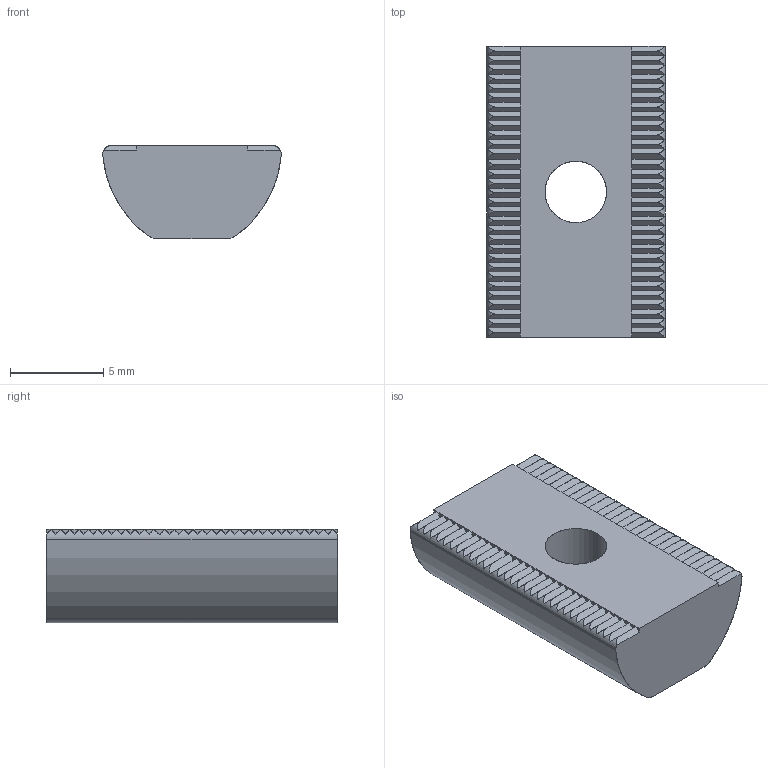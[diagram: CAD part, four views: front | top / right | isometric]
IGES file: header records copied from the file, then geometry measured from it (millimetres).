
Start section: SolidWorks IGES file using analytic representation for surfaces
Global section: file name: C:\Users\admin\Desktop\IGES\J3M4FDE.igs; native system: SolidWorks 2014; preprocessor: SolidWorks 2014; author: admin_pc; date: 170524.165454; units: millimetre
Bounding box: 9.58 x 15.6 x 5 mm (x, y, z)
Surface area: 529.9 mm2 (no closed solid volume)
Topology: 0 solids, 0 shells, 200 faces, 1520 edges, 1520 vertices
Faces by surface type: bspline 192, revolution 8
